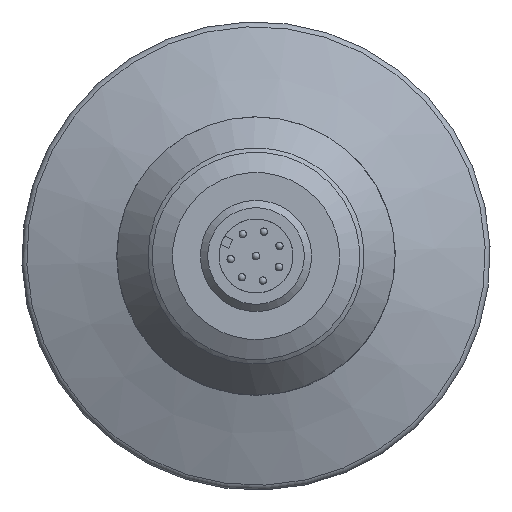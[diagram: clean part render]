
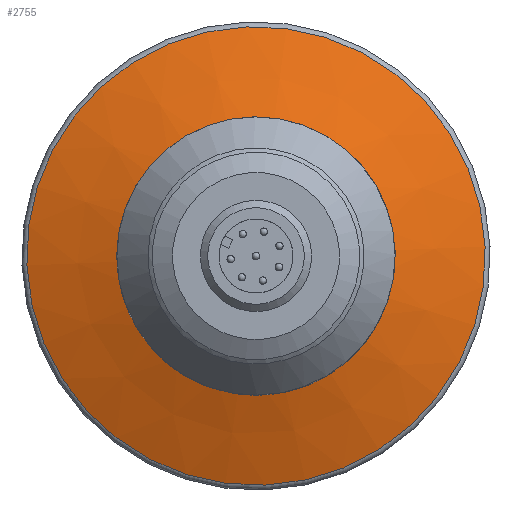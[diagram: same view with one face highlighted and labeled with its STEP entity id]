
A CAD part, front view. The second image highlights one B-rep face of the part: STEP entity #2755.
In plain terms, the highlighted conical face has half-angle 70 degrees and reference radius 24.724 mm.
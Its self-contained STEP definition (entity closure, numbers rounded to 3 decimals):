
#288=CONICAL_SURFACE('',#2939,24.724,1.222);
#1347=ORIENTED_EDGE('',*,*,#1730,.F.);
#1348=ORIENTED_EDGE('',*,*,#1732,.F.);
#1730=EDGE_CURVE('',#2000,#2000,#2074,.T.);
#1732=EDGE_CURVE('',#2002,#2002,#2076,.T.);
#2000=VERTEX_POINT('',#8587);
#2002=VERTEX_POINT('',#8592);
#2074=CIRCLE('',#2919,24.724);
#2076=CIRCLE('',#2922,13.848);
#2313=EDGE_LOOP('',(#1347));
#2314=EDGE_LOOP('',(#1348));
#2557=FACE_BOUND('',#2313,.T.);
#2558=FACE_BOUND('',#2314,.T.);
#2755=ADVANCED_FACE('',(#2557,#2558),#288,.T.);
#2919=AXIS2_PLACEMENT_3D('',#8586,#3365,#3366);
#2922=AXIS2_PLACEMENT_3D('',#8591,#3371,#3372);
#2939=AXIS2_PLACEMENT_3D('',#8617,#3405,#3406);
#3365=DIRECTION('',(0.,1.,0.));
#3366=DIRECTION('',(0.739,0.,0.674));
#3371=DIRECTION('',(0.,-1.,0.));
#3372=DIRECTION('',(0.739,0.,0.674));
#3405=DIRECTION('',(0.,1.,0.));
#3406=DIRECTION('',(0.739,0.,0.674));
#8586=CARTESIAN_POINT('',(0.,-21.708,0.));
#8587=CARTESIAN_POINT('',(18.264,-21.708,16.664));
#8591=CARTESIAN_POINT('',(0.,-25.667,0.));
#8592=CARTESIAN_POINT('',(10.23,-25.667,9.334));
#8617=CARTESIAN_POINT('',(0.,-21.708,0.));
